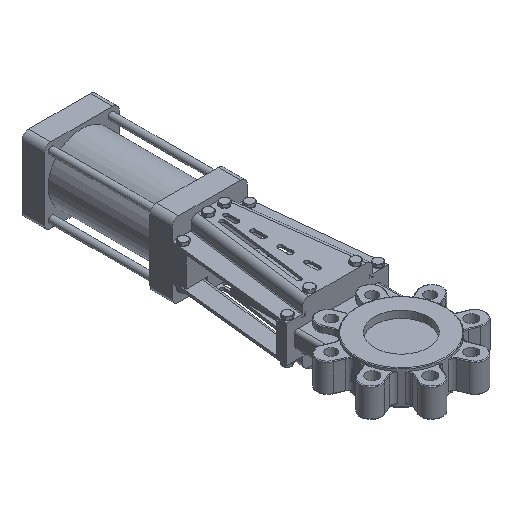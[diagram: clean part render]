
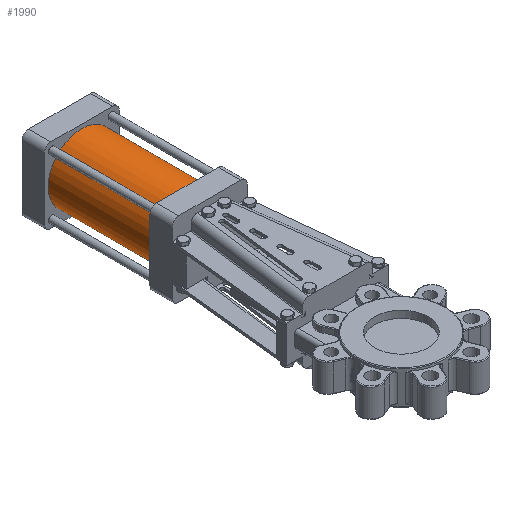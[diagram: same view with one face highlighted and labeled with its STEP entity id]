
A CAD part, isometric view. The second image highlights one B-rep face of the part: STEP entity #1990.
In plain terms, the highlighted cylindrical face has radius 50 mm (diameter 100 mm), a full revolution.
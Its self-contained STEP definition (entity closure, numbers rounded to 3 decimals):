
#1990=ADVANCED_FACE('',(#10071,#10073),#10075,.T.);
#10071=FACE_OUTER_BOUND('',#10072,.T.);
#10072=EDGE_LOOP('',(#16407));
#10073=FACE_OUTER_BOUND('',#10074,.T.);
#10074=EDGE_LOOP('',(#16408));
#10075=CYLINDRICAL_SURFACE('',#10076,50.);
#10076=AXIS2_PLACEMENT_3D('',#10077,#10078,#10079);
#10077=CARTESIAN_POINT('',(0.,319.,0.));
#10078=DIRECTION('',(0.,1.,0.));
#10079=DIRECTION('',(0.,0.,1.));
#16407=ORIENTED_EDGE('',*,*,#20991,.F.);
#16408=ORIENTED_EDGE('',*,*,#20510,.T.);
#20510=EDGE_CURVE('',#23085,#23085,#23086,.T.);
#20991=EDGE_CURVE('',#23925,#23925,#23926,.T.);
#23085=VERTEX_POINT('',#27928);
#23086=CIRCLE('',#27929,50.);
#23925=VERTEX_POINT('',#32151);
#23926=CIRCLE('',#32152,50.);
#27928=CARTESIAN_POINT('',(0.,319.,50.));
#27929=AXIS2_PLACEMENT_3D('',#27930,#27931,#27932);
#27930=CARTESIAN_POINT('',(0.,319.,0.));
#27931=DIRECTION('',(0.,1.,0.));
#27932=DIRECTION('',(0.,0.,1.));
#32151=CARTESIAN_POINT('',(0.,477.,50.));
#32152=AXIS2_PLACEMENT_3D('',#32153,#32154,#32155);
#32153=CARTESIAN_POINT('',(0.,477.,0.));
#32154=DIRECTION('',(0.,1.,0.));
#32155=DIRECTION('',(0.,0.,1.));
